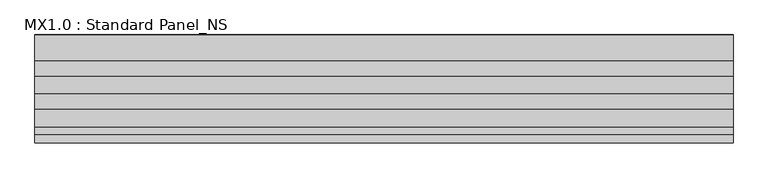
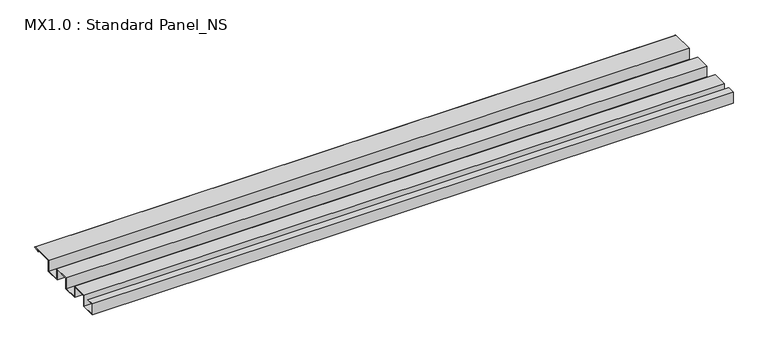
"""IFC4 building model written with IfcOpenShell, lengths in millimetres: proxy geometry, MX1.0 : Standard Panel_NS."""

from ifc_helpers import new_model, si_unit, point, frame, frame_2d, origin, place, context, project, spatial, polyline, circle_curve, trimmed, segment, composite_curve, outline, extrude, source, transform, mapped, element, save


def mx1_0_standard_panel_ns_dc5b759f(model_context):
    return source(origin(), model_context, "Body", "SweptSolid", [
        extrude(outline(composite_curve([segment(polyline([(0.0, 0.0), (25.0, 0.0), (25.0, -1.0), (1.0, -1.0), (1.0, -37.0), (49.0, -37.0), (49.0, 0.0), (101.0, 0.0), (101.0, -37.0), (149.0, -37.0), (149.0, 0.0), (201.0, 0.0), (201.0, -37.0), (249.0, -37.0), (249.0, 1.0), (325.0510156, 1.0)]), True, "CONTINUOUS"), segment(trimmed(circle_curve(frame_2d((324.3094696, -0.9153551)), 2.0538928), [point((325.0510156, 1.0))], [point((325.1748462, -2.778041))], False, "CARTESIAN"), True, "CONTINUOUS"), segment(polyline([(325.1748462, -2.778041), (308.7874714, -5.923107), (308.5989911, -4.94103), (324.8448691, -1.8231201)]), True, "CONTINUOUS"), segment(trimmed(circle_curve(frame_2d((324.3094696, -0.9153551)), 1.0538928), [point((324.8448691, -1.8231201))], [point((324.8317866, 0.0))], True, "CARTESIAN"), True, "CONTINUOUS"), segment(polyline([(324.8317866, 0.0), (250.0, 0.0), (250.0, -38.0), (200.0, -38.0), (200.0, -1.0), (150.0, -1.0), (150.0, -38.0), (100.0, -38.0), (100.0, -1.0), (50.0, -1.0), (50.0, -38.0), (0.0, -38.0), (0.0, 0.0)]), True, "CONTINUOUS")], self_intersect=False)), frame((0.0, 0.0, 0.0), z_axis=(1.0, 0.0, 0.0), x_axis=(0.0, 1.0, 0.0)), (0.0, 0.0, 1.0), 2100.0),
    ])


if __name__ == "__main__":
    model = new_model("IFC4")
    model_context = context("Model", 3, world=origin())
    ifc_project = project(units=[si_unit("LENGTHUNIT", "METRE", prefix="MILLI")], contexts=[model_context])
    site = spatial("IfcSite", under=ifc_project)
    building = spatial("IfcBuilding", under=site)
    placement = place(None, origin())
    mx1_0_standard_panel_ns_shape = mx1_0_standard_panel_ns_dc5b759f(model_context)
    element("IfcBuildingElementProxy", 1, Name="MX1.0 : Standard Panel_NS", ObjectType="MX1.0 : Standard Panel_NS", at=placement, inside=building, context=model_context, shape_type="MappedRepresentation", body=[
        mapped(mx1_0_standard_panel_ns_shape, transform((0.0, 0.0, 0.0), x_axis=(1.0, 0.0, 0.0), y_axis=(0.0, 1.0, 0.0), z_axis=(0.0, 0.0, 1.0))),
    ])
    save(model, "model.ifc")
